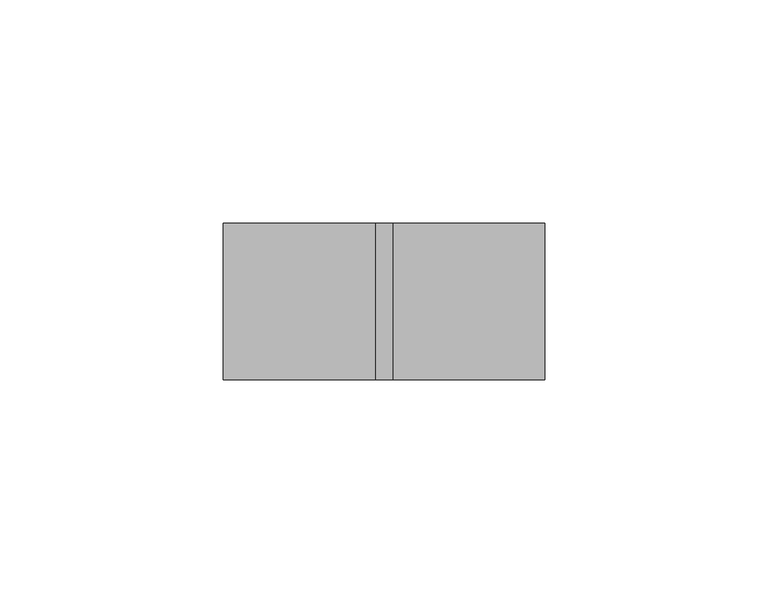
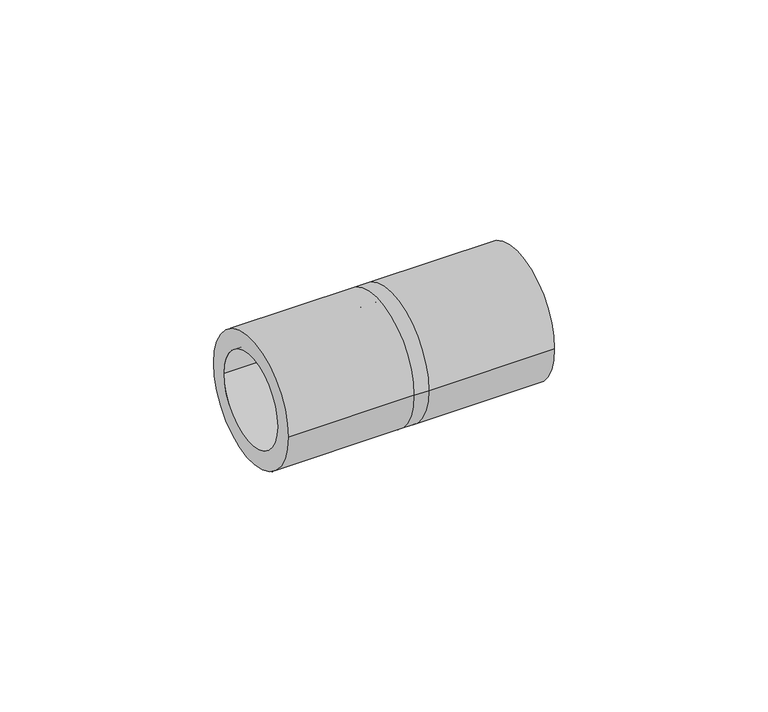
"""IFC4 building model written with IfcOpenShell, lengths in millimetres: cable carrier fitting geometry."""

from ifc_helpers import new_model, si_unit, frame, origin, place, context, project, spatial, polyline, circle_curve, source, transform, mapped, element, save
from ifc_brep_helpers import plane_surface, cylinder_surface, revolved_surface, advanced_brep


def cable_carrier_fitting_7d5fb7ba(model_context):
    return source(origin(), model_context, "Body", "AdvancedBrep", [
        advanced_brep(
        [(-36.0, -17.5, 0.0), (-36.0, 17.5, 0.0), (-36.0, -12.5, 0.0), (-36.0, 12.5, 0.0), (-2.0, 12.5, 0.0), (-2.0, -12.5, 0.0), (-2.0, 17.5, 0.0), (-2.0, -17.5, 0.0), (2.0, -12.5, 0.0), (2.0, 12.5, 0.0), (2.0, -17.5, 0.0), (2.0, 17.5, 0.0), (36.0, -17.5, 0.0), (36.0, 17.5, 0.0), (36.0, -12.5, 0.0), (36.0, 12.5, 0.0)],
        [
            (0, 1, circle_curve(frame((-36.0, 0.0, 0.0), z_axis=(-1.0, 0.0, 0.0), x_axis=(0.0, 1.0, 0.0)), 17.5)),
            (1, 0, circle_curve(frame((-36.0, 0.0, 0.0), z_axis=(-1.0, 0.0, 0.0), x_axis=(0.0, 1.0, 0.0)), 17.5)),
            (2, 3, circle_curve(frame((-36.0, 0.0, 0.0), z_axis=(1.0, 0.0, 0.0), x_axis=(0.0, 1.0, 0.0)), 12.5)),
            (3, 2, circle_curve(frame((-36.0, 0.0, 0.0), z_axis=(1.0, 0.0, 0.0), x_axis=(0.0, 1.0, 0.0)), 12.5)),
            (3, 4),
            (4, 5, circle_curve(frame((-2.0, 0.0, 0.0), z_axis=(1.0, 0.0, 0.0), x_axis=(0.0, 1.0, 0.0)), 12.5)),
            (5, 2),
            (5, 4, circle_curve(frame((-2.0, 0.0, 0.0), z_axis=(1.0, 0.0, 0.0), x_axis=(0.0, 1.0, 0.0)), 12.5)),
            (1, 6),
            (6, 7, circle_curve(frame((-2.0, 0.0, 0.0), z_axis=(-1.0, 0.0, 0.0), x_axis=(0.0, 1.0, 0.0)), 17.5)),
            (7, 0),
            (7, 6, circle_curve(frame((-2.0, 0.0, 0.0), z_axis=(-1.0, 0.0, 0.0), x_axis=(0.0, 1.0, 0.0)), 17.5)),
            (5, 8),
            (8, 9, circle_curve(frame((2.0, 0.0, 0.0), z_axis=(1.0, 0.0, 0.0), x_axis=(0.0, 1.0, 0.0)), 12.5)),
            (9, 4),
            (9, 8, circle_curve(frame((2.0, 0.0, 0.0), z_axis=(1.0, 0.0, 0.0), x_axis=(0.0, 1.0, 0.0)), 12.5)),
            (7, 10),
            (10, 11, circle_curve(frame((2.0, 0.0, 0.0), z_axis=(-1.0, 0.0, 0.0), x_axis=(0.0, 1.0, 0.0)), 17.5)),
            (11, 6),
            (11, 10, circle_curve(frame((2.0, 0.0, 0.0), z_axis=(-1.0, 0.0, 0.0), x_axis=(0.0, 1.0, 0.0)), 17.5)),
            (12, 13, circle_curve(frame((36.0, 0.0, 0.0), z_axis=(1.0, 0.0, 0.0), x_axis=(0.0, 1.0, 0.0)), 17.5)),
            (13, 12, circle_curve(frame((36.0, 0.0, 0.0), z_axis=(1.0, 0.0, 0.0), x_axis=(0.0, 1.0, 0.0)), 17.5)),
            (14, 15, circle_curve(frame((36.0, 0.0, 0.0), z_axis=(-1.0, 0.0, 0.0), x_axis=(0.0, 1.0, 0.0)), 12.5)),
            (15, 14, circle_curve(frame((36.0, 0.0, 0.0), z_axis=(-1.0, 0.0, 0.0), x_axis=(0.0, 1.0, 0.0)), 12.5)),
            (13, 11),
            (10, 12),
            (15, 9),
            (8, 14),
        ],
        [
            plane_surface(frame((-36.0, 0.0, 0.0), z_axis=(-1.0, 0.0, 0.0), x_axis=(0.0, 0.0, 1.0))),
            revolved_surface(polyline([(-2.0, 12.5, 0.0), (-36.0, 12.5, 0.0)]), (-36.0, 0.0, 0.0), (1.0, 0.0, 0.0)),
            cylinder_surface(frame((-36.0, 0.0, 0.0), z_axis=(-1.0, 0.0, 0.0), x_axis=(0.0, 1.0, 0.0)), 17.5),
            revolved_surface(polyline([(2.0, 12.5, 0.0), (-2.0, 12.5, 0.0)]), (-2.0, 0.0, 0.0), (1.0, 0.0, 0.0)),
            cylinder_surface(frame((-2.0, 0.0, 0.0), z_axis=(-1.0, 0.0, 0.0), x_axis=(0.0, 1.0, 0.0)), 17.5),
            plane_surface(frame((36.0, 0.0, 0.0), z_axis=(1.0, 0.0, 0.0), x_axis=(0.0, 0.0, 1.0))),
            cylinder_surface(frame((2.0, 0.0, 0.0), z_axis=(-1.0, 0.0, 0.0), x_axis=(0.0, 1.0, 0.0)), 17.5),
            revolved_surface(polyline([(36.0, 12.5, 0.0), (2.0, 12.5, 0.0)]), (2.0, 0.0, 0.0), (1.0, 0.0, 0.0)),
        ],
        [
            (0, [[1, 2], [3, 4]]),
            (1, [[-4, 5, 6, 7]]),
            (1, [[-3, -7, 8, -5]]),
            (2, [[-2, 9, 10, 11]]),
            (2, [[-1, -11, 12, -9]]),
            (3, [[13, 14, 15, -8]]),
            (3, [[-13, -6, -15, 16]]),
            (4, [[17, 18, 19, -12]]),
            (4, [[-17, -10, -19, 20]]),
            (5, [[21, 22], [23, 24]]),
            (6, [[-22, 25, -18, 26]]),
            (6, [[-21, -26, -20, -25]]),
            (7, [[-24, 27, -14, 28]]),
            (7, [[-23, -28, -16, -27]]),
        ],
    ),
    ])


if __name__ == "__main__":
    model = new_model("IFC4")
    model_context = context("Model", 3, world=origin())
    ifc_project = project(units=[si_unit("LENGTHUNIT", "METRE", prefix="MILLI")], contexts=[model_context])
    site = spatial("IfcSite", under=ifc_project)
    building = spatial("IfcBuilding", under=site)
    placement = place(None, origin())
    cable_carrier_fitting_shape = cable_carrier_fitting_7d5fb7ba(model_context)
    element("IfcCableCarrierFitting", 1, at=placement, inside=building, context=model_context, shape_type="MappedRepresentation", body=[
        mapped(cable_carrier_fitting_shape, transform((0.0, 0.0, 0.0), x_axis=(1.0, 0.0, 0.0), y_axis=(0.0, 1.0, 0.0), z_axis=(0.0, 0.0, 1.0))),
    ])
    save(model, "model.ifc")
